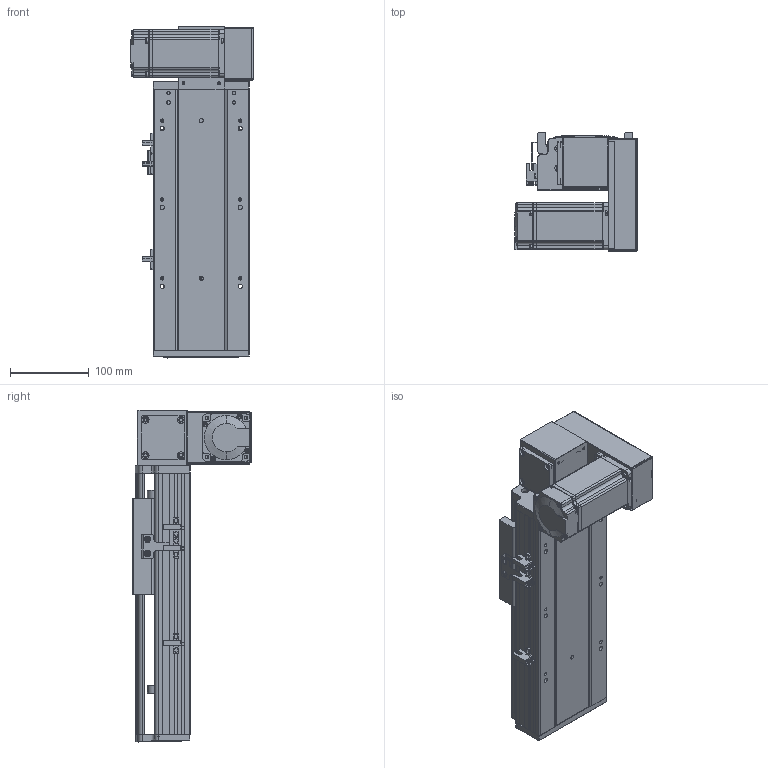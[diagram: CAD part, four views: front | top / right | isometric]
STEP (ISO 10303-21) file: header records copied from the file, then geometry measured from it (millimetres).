
FILE_DESCRIPTION (( 'STEP AP203' ), '1' );
FILE_NAME ('RY120-T-300-DR.SLDASM_100.step', '2021-03-01T03:34:21', ( '盈信电脑' ), ( '东莞市道滘镇水果街19号' ), 'SwSTEP 2.0', 'SolidWorks 2012', '' );
FILE_SCHEMA (( 'CONFIG_CONTROL_DESIGN' ));
Length unit declared in the file: millimetre
Products named in the file (17): RY120-T萇儂欶; RY120-T主同步轮轴承压盖; RY120-T蹟翐M4; RY120-T-300-DR.SLDASM_100; 15; 滅袉蝶18-10; RY120-T翋肮祭謫裔啣; RY120-T萇儂假蚾啣; RY120外置感应片(140共用）; RY120-T肮祭湍揤踡輸1; RY120-T肮祭湍揤踡輸2; RY120-T翋肮祭盓傅釱; RY120肮祭湍臏賑輸; 覜茼ん672; RY120綴裔啣; RY120-T-300-DR倰第菁釱_100; RY120-T-300-DR倰第奻裔啣_100
Assembly tree (22 placements, depth 2):
  RY120-T-300-DR.SLDASM_100
    RY120-T-300-DR倰第菁釱_100
    RY120-T-300-DR倰第奻裔啣_100
    RY120肮祭湍臏賑輸
    RY120綴裔啣
    覜茼ん672  x3
    RY120外置感应片(140共用）
    RY120-T肮祭湍揤踡輸1
    RY120-T肮祭湍揤踡輸2
    RY120-T翋肮祭盓傅釱
    滅袉蝶18-10  x2
    RY120-T翋肮祭謫裔啣
    15
    RY120-T萇儂假蚾啣
    RY120-T蹟翐M4  x4
    RY120-T萇儂欶
    RY120-T主同步轮轴承压盖
Bounding box: 155.5 x 150 x 421 mm (x, y, z)
Volume: 1648002.9 mm3; surface area: 569300.8 mm2
Topology: 23 solids, 23 shells, 2524 faces, 6832 edges, 4408 vertices
Faces by surface type: plane 1372, cylinder 882, cone 181, bspline 89
Entity records: 78745 total; most frequent: CARTESIAN_POINT 19094, ORIENTED_EDGE 12208, DIRECTION 11654, EDGE_CURVE 6104, VERTEX_POINT 3995, LINE 3992, VECTOR 3992, AXIS2_PLACEMENT_3D 3831
